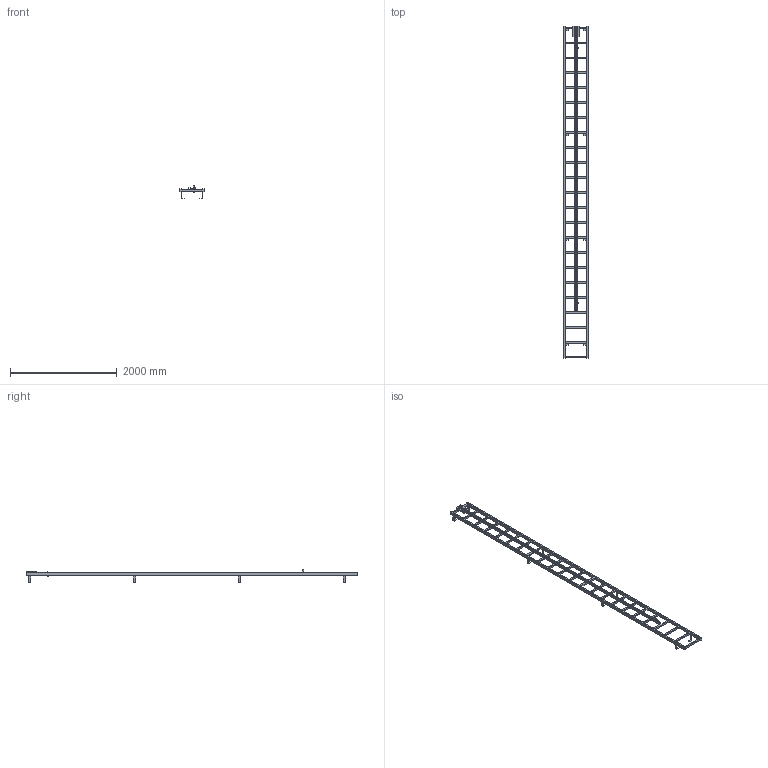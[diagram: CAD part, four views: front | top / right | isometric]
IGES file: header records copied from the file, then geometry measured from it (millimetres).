
Start section:  PTC IGES file: 52330189.igs
Global section: file name: 52330189.igs; native system: Creo Parametric by PTC Inc.; preprocessor: 2022162; author: wep; organization: Unknown; date: 20241205.085807; units: millimetre
Bounding box: 450 x 6210 x 239 mm (x, y, z)
Surface area: 4655039.3 mm2 (no closed solid volume)
Topology: 0 solids, 0 shells, 368 faces, 2164 edges, 2164 vertices
Faces by surface type: bspline 368
